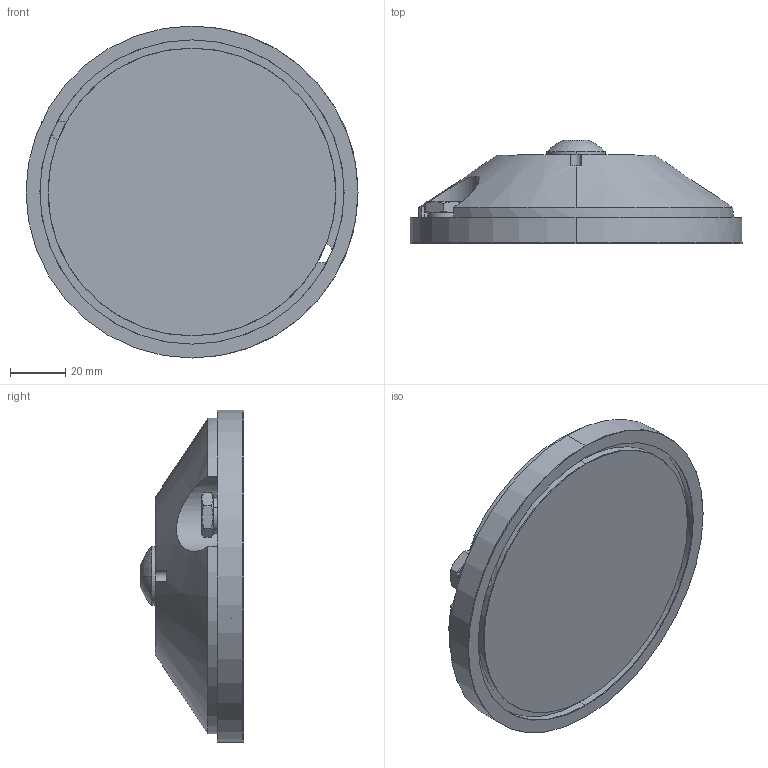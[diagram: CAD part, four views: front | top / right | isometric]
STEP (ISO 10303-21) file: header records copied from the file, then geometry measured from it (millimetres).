
FILE_DESCRIPTION (( 'STEP AP214' ), '1' );
FILE_NAME ('0019802 EZ-0300-120.STEP', '2022-02-28T12:16:25', ( '' ), ( '' ), 'SwSTEP 2.0', 'SolidWorks 2021', '' );
FILE_SCHEMA (( 'AUTOMOTIVE_DESIGN' ));
Length unit declared in the file: millimetre
Products named in the file (1): 0019802 EZ-0300-120
Bounding box: 120 x 37.42 x 120 mm (x, y, z)
Volume: 246858.3 mm3; surface area: 56001.9 mm2
Topology: 7 solids, 7 shells, 194 faces, 474 edges, 277 vertices
Faces by surface type: cylinder 81, cone 60, plane 51, sphere 2
Entity records: 7943 total; most frequent: CARTESIAN_POINT 1265, DIRECTION 983, ORIENTED_EDGE 876, EDGE_CURVE 438, AXIS2_PLACEMENT_3D 401, VERTEX_POINT 277, EDGE_LOOP 223, CIRCLE 206
